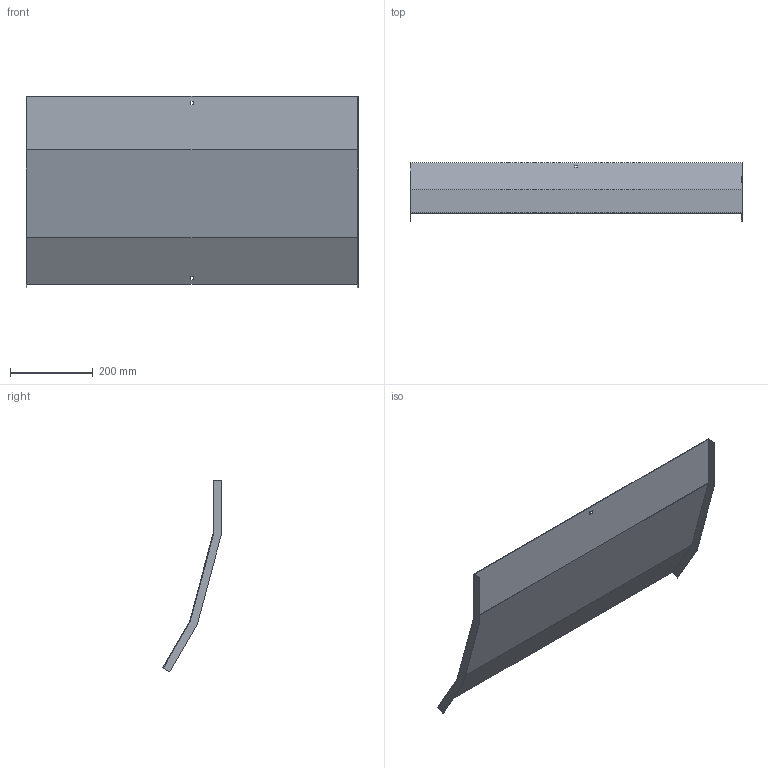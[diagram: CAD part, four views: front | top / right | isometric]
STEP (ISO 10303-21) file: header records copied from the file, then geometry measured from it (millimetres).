
FILE_DESCRIPTION (( 'STEP AP214' ), '1' );
FILE_NAME ('32N5R800_H150.step', '2025-02-21T14:28:24', ( '' ), ( '' ), 'SwSTEP 2.0', 'SolidWorks 2023', '' );
FILE_SCHEMA (( 'AUTOMOTIVE_DESIGN' ));
Length unit declared in the file: millimetre
Products named in the file (1): 32N5R800_H150
Bounding box: 803 x 141.68 x 464.12 mm (x, y, z)
Volume: 604154.4 mm3; surface area: 809619.6 mm2
Topology: 1 solids, 1 shells, 26 faces, 72 edges, 48 vertices
Faces by surface type: plane 26
Entity records: 847 total; most frequent: CARTESIAN_POINT 147, ORIENTED_EDGE 144, DIRECTION 126, LINE 72, EDGE_CURVE 72, VECTOR 72, VERTEX_POINT 48, EDGE_LOOP 30
